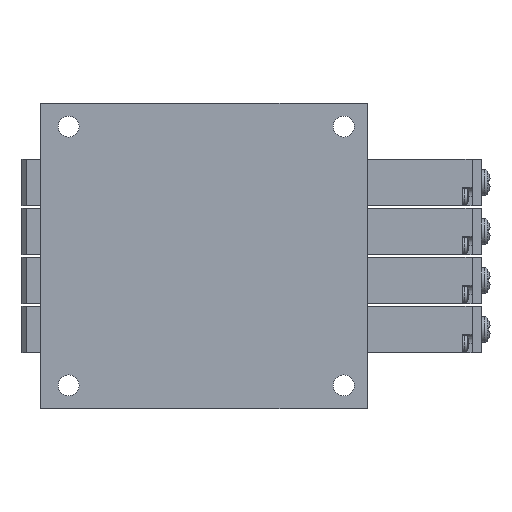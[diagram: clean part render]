
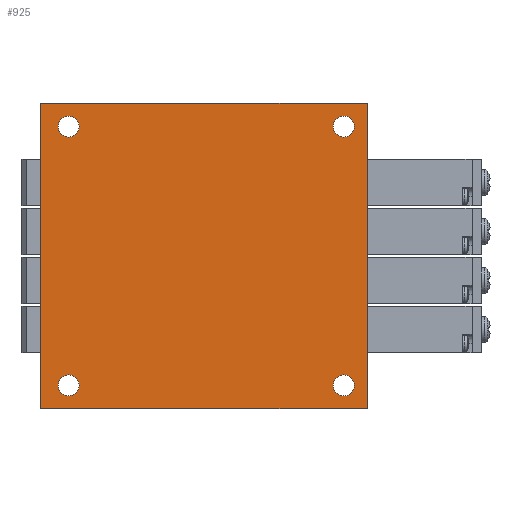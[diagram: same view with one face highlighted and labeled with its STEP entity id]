
A CAD part, front view. The second image highlights one B-rep face of the part: STEP entity #925.
In plain terms, the highlighted planar face has unit normal (0, -1, 0).
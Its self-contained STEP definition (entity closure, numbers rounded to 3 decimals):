
#925=ADVANCED_FACE('',(#1826,#1827,#1828,#1829,#1830),#1831,.F.);
#1826=FACE_OUTER_BOUND('',#2740,.T.);
#1827=FACE_BOUND('',#2741,.T.);
#1828=FACE_BOUND('',#2742,.T.);
#1829=FACE_BOUND('',#2743,.T.);
#1830=FACE_BOUND('',#2744,.T.);
#1831=PLANE('',#2745);
#2740=EDGE_LOOP('',(#5945,#5946,#5947,#5948));
#2741=EDGE_LOOP('',(#5949));
#2742=EDGE_LOOP('',(#5950));
#2743=EDGE_LOOP('',(#5951));
#2744=EDGE_LOOP('',(#5952));
#2745=AXIS2_PLACEMENT_3D('',#5953,#5954,#5955);
#5945=ORIENTED_EDGE('',*,*,#6978,.T.);
#5946=ORIENTED_EDGE('',*,*,#6988,.F.);
#5947=ORIENTED_EDGE('',*,*,#6964,.F.);
#5948=ORIENTED_EDGE('',*,*,#6989,.T.);
#5949=ORIENTED_EDGE('',*,*,#6974,.F.);
#5950=ORIENTED_EDGE('',*,*,#6980,.F.);
#5951=ORIENTED_EDGE('',*,*,#6986,.F.);
#5952=ORIENTED_EDGE('',*,*,#6987,.F.);
#5953=CARTESIAN_POINT('',(0.0,0.0,32.75));
#5954=DIRECTION('',(-0.0,1.0,0.0));
#5955=DIRECTION('',(1.0,0.0,0.0));
#6964=EDGE_CURVE('',#8643,#8645,#8646,.T.);
#6974=EDGE_CURVE('',#8664,#8664,#8665,.T.);
#6978=EDGE_CURVE('',#8673,#8671,#8674,.T.);
#6980=EDGE_CURVE('',#8676,#8676,#8677,.T.);
#6986=EDGE_CURVE('',#8686,#8686,#8687,.T.);
#6987=EDGE_CURVE('',#8688,#8688,#8689,.T.);
#6988=EDGE_CURVE('',#8645,#8671,#8690,.T.);
#6989=EDGE_CURVE('',#8643,#8673,#8691,.T.);
#8643=VERTEX_POINT('',#11420);
#8645=VERTEX_POINT('',#11423);
#8646=LINE('',#11424,#11425);
#8664=VERTEX_POINT('',#11444);
#8665=CIRCLE('',#11445,2.25);
#8671=VERTEX_POINT('',#11452);
#8673=VERTEX_POINT('',#11455);
#8674=LINE('',#11456,#11457);
#8676=VERTEX_POINT('',#11460);
#8677=CIRCLE('',#11461,2.25);
#8686=VERTEX_POINT('',#11472);
#8687=CIRCLE('',#11473,2.25);
#8688=VERTEX_POINT('',#11474);
#8689=CIRCLE('',#11475,2.25);
#8690=LINE('',#11476,#11477);
#8691=LINE('',#11478,#11479);
#11420=CARTESIAN_POINT('',(0.0,0.0,32.75));
#11423=CARTESIAN_POINT('',(70.0,0.0,32.75));
#11424=CARTESIAN_POINT('',(0.0,0.0,32.75));
#11425=VECTOR('',#12802,1.0);
#11444=CARTESIAN_POINT('',(6.0,0.0,30.0));
#11445=AXIS2_PLACEMENT_3D('',#12828,#12829,#12830);
#11452=CARTESIAN_POINT('',(70.0,0.0,-32.75));
#11455=CARTESIAN_POINT('',(0.0,0.0,-32.75));
#11456=CARTESIAN_POINT('',(0.0,0.0,-32.75));
#11457=VECTOR('',#12836,1.0);
#11460=CARTESIAN_POINT('',(65.0,0.0,-25.5));
#11461=AXIS2_PLACEMENT_3D('',#12838,#12839,#12840);
#11472=CARTESIAN_POINT('',(6.0,0.0,-25.5));
#11473=AXIS2_PLACEMENT_3D('',#12852,#12853,#12854);
#11474=CARTESIAN_POINT('',(65.0,0.0,30.0));
#11475=AXIS2_PLACEMENT_3D('',#12855,#12856,#12857);
#11476=CARTESIAN_POINT('',(70.0,0.0,32.75));
#11477=VECTOR('',#12858,1.0);
#11478=CARTESIAN_POINT('',(0.0,0.0,32.75));
#11479=VECTOR('',#12859,1.0);
#12802=DIRECTION('',(1.0,0.0,0.0));
#12828=CARTESIAN_POINT('',(6.0,0.0,27.75));
#12829=DIRECTION('',(0.0,-1.0,0.0));
#12830=DIRECTION('',(0.0,0.0,1.0));
#12836=DIRECTION('',(1.0,0.0,0.0));
#12838=CARTESIAN_POINT('',(65.0,0.0,-27.75));
#12839=DIRECTION('',(0.0,-1.0,0.0));
#12840=DIRECTION('',(0.0,0.0,1.0));
#12852=CARTESIAN_POINT('',(6.0,0.0,-27.75));
#12853=DIRECTION('',(0.0,-1.0,0.0));
#12854=DIRECTION('',(0.0,0.0,1.0));
#12855=CARTESIAN_POINT('',(65.0,0.0,27.75));
#12856=DIRECTION('',(0.0,-1.0,0.0));
#12857=DIRECTION('',(0.0,0.0,1.0));
#12858=DIRECTION('',(0.0,0.0,-1.0));
#12859=DIRECTION('',(0.0,0.0,-1.0));
